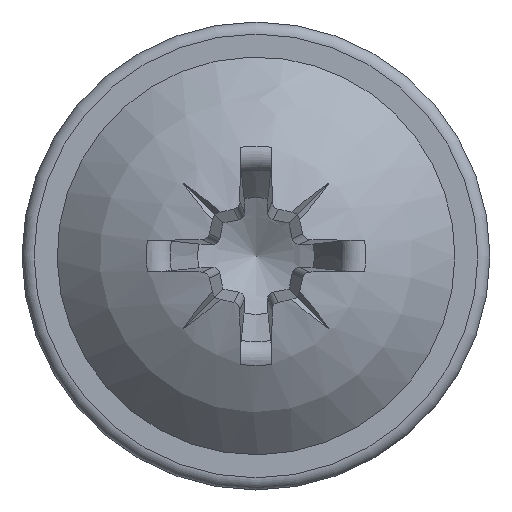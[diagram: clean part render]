
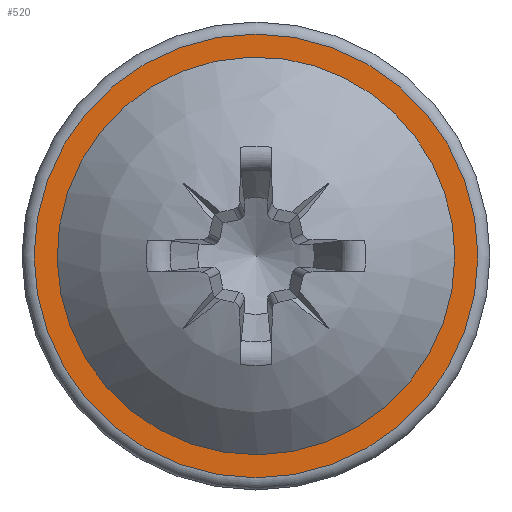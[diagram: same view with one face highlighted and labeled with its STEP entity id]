
A CAD part, top view. The second image highlights one B-rep face of the part: STEP entity #520.
In plain terms, the highlighted planar face has unit normal (0, 0, 1).
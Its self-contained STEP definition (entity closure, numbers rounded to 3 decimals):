
#156=PLANE('',#2777);
#494=FACE_BOUND('',#872,.T.);
#495=FACE_BOUND('',#873,.T.);
#520=ADVANCED_FACE('',(#494,#495),#156,.F.);
#872=EDGE_LOOP('',(#1202));
#873=EDGE_LOOP('',(#1203));
#1044=CIRCLE('',#2735,6.588);
#1079=CIRCLE('',#2776,7.35);
#1202=ORIENTED_EDGE('',*,*,#2233,.T.);
#1203=ORIENTED_EDGE('',*,*,#2182,.F.);
#1942=VERTEX_POINT('',#5906);
#1991=VERTEX_POINT('',#6204);
#2182=EDGE_CURVE('',#1942,#1942,#1044,.T.);
#2233=EDGE_CURVE('',#1991,#1991,#1079,.T.);
#2735=AXIS2_PLACEMENT_3D('',#5905,#2846,#2847);
#2776=AXIS2_PLACEMENT_3D('',#6203,#2929,#2930);
#2777=AXIS2_PLACEMENT_3D('',#6205,#2931,#2932);
#2846=DIRECTION('',(0.,0.,1.));
#2847=DIRECTION('',(1.,0.,0.));
#2929=DIRECTION('',(0.,0.,1.));
#2930=DIRECTION('',(-1.,0.,0.));
#2931=DIRECTION('',(0.,0.,-1.));
#2932=DIRECTION('',(-1.,0.,0.));
#5905=CARTESIAN_POINT('',(0.,0.,1.6));
#5906=CARTESIAN_POINT('',(6.588,0.,1.6));
#6203=CARTESIAN_POINT('',(0.,0.,1.6));
#6204=CARTESIAN_POINT('',(-7.35,0.,1.6));
#6205=CARTESIAN_POINT('',(0.,7.75,1.6));
